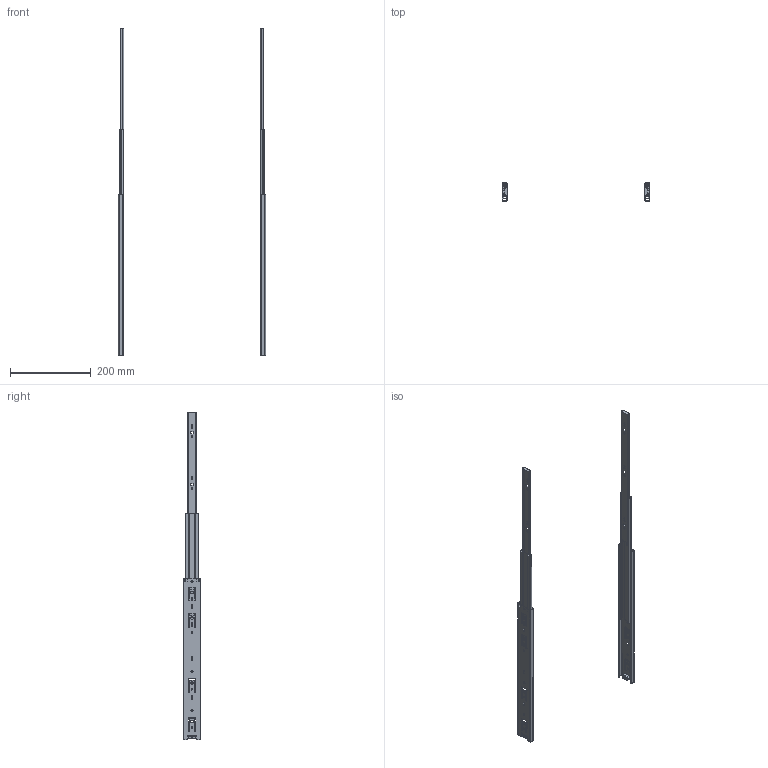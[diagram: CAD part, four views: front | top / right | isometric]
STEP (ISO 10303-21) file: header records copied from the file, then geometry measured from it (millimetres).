
FILE_DESCRIPTION(/* description */ (''),/* implementation_level */ '2;1');
FILE_NAME(/* name */ 'D:\$Workingspace\Designs\Katalog\Cadsoft\GTV Prowadnice\Prowadnice GTV_bryły 3D\PK-0-H45-400_wysunieta.stp',/* time_stamp */ '2016-11-22T11:26:44+01:00',/* author */ ('tomaszw'),/* organization */ (''),/* preprocessor_version */ 'ST-DEVELOPER v16.1',/* originating_system */ 'Autodesk Inventor 2016',/* authorisation */ '');
FILE_SCHEMA (('AUTOMOTIVE_DESIGN { 1 0 10303 214 3 1 1 }'));
Length unit declared in the file: millimetre
Products named in the file (5): Blokada_4; PK-0-H45_1-400; PK-0-H45_2-400; PK-0-H45_3-400; PK-0-H45
Assembly tree (8 placements, depth 2):
  PK-0-H45
    Blokada_4  x2
    PK-0-H45_1-400  x2
    PK-0-H45_2-400  x2
    PK-0-H45_3-400  x2
Bounding box: 364 x 44.5 x 811 mm (x, y, z)
Volume: 126714.4 mm3; surface area: 248289.8 mm2
Topology: 8 solids, 8 shells, 498 faces, 1438 edges, 956 vertices
Faces by surface type: cylinder 258, plane 236, cone 4
Full cylindrical faces by diameter (mm): 4.5 x12, 5 x6, 6.4 x8
Entity records: 8721 total; most frequent: DIRECTION 1478, CARTESIAN_POINT 1472, ORIENTED_EDGE 1412, EDGE_CURVE 706, AXIS2_PLACEMENT_3D 518, VERTEX_POINT 478, LINE 442, VECTOR 442
